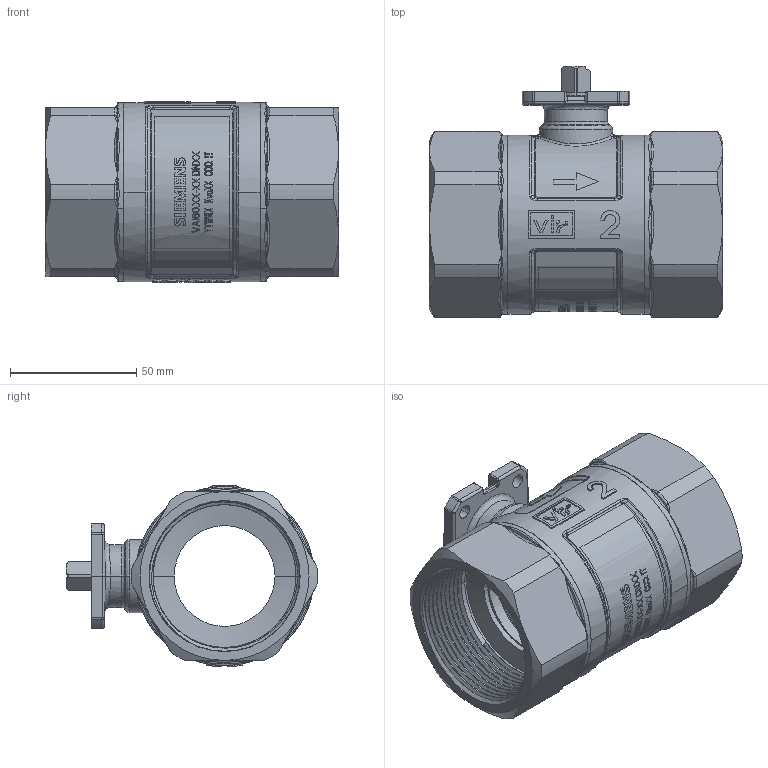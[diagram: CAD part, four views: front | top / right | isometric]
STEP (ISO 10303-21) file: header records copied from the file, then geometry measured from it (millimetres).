
FILE_DESCRIPTION((''),'2;1');
FILE_NAME('H980F0050_2119_ASM','2012-09-21T',('61graziano'),('Vir spa'),'PRO/ENGINEER BY PARAMETRIC TECHNOLOGY CORPORATION, 2010280','PRO/ENGINEER BY PARAMETRIC TECHNOLOGY CORPORATION, 2010280','');
FILE_SCHEMA(('CONFIG_CONTROL_DESIGN'));
Products named in the file (9): CC980S050_1170_SIEM_ON-OFF; CXG980040_1330; CXP980040_92; CXGOR0115_692; CM98GF050_109; CXGOR3193_692; CXH980040_155; C300W_040_XK; H980F0050_2119_ASM
Assembly tree (12 placements, depth 2):
  H980F0050_2119_ASM
    CC980S050_1170_SIEM_ON-OFF
    CXG980040_1330
    CXP980040_92
    CXGOR0115_692  x2
    CM98GF050_109  x2
    CXGOR3193_692  x2
    CXH980040_155  x2
    C300W_040_XK
Bounding box: 116.2 x 99.79 x 71.98 mm (x, y, z)
Volume: 221431.3 mm3; surface area: 130095.1 mm2
Topology: 12 solids, 19 shells, 2022 faces, 5449 edges, 3442 vertices
Faces by surface type: plane 1325, cylinder 327, bspline 174, cone 100, torus 82, sphere 14
Entity records: 70637 total; most frequent: CARTESIAN_POINT 28043, ORIENTED_EDGE 9930, DIRECTION 7212, EDGE_CURVE 4975, VERTEX_POINT 3222, AXIS2_PLACEMENT_3D 2672, B_SPLINE_CURVE_WITH_KNOTS 2185, EDGE_LOOP 1962
